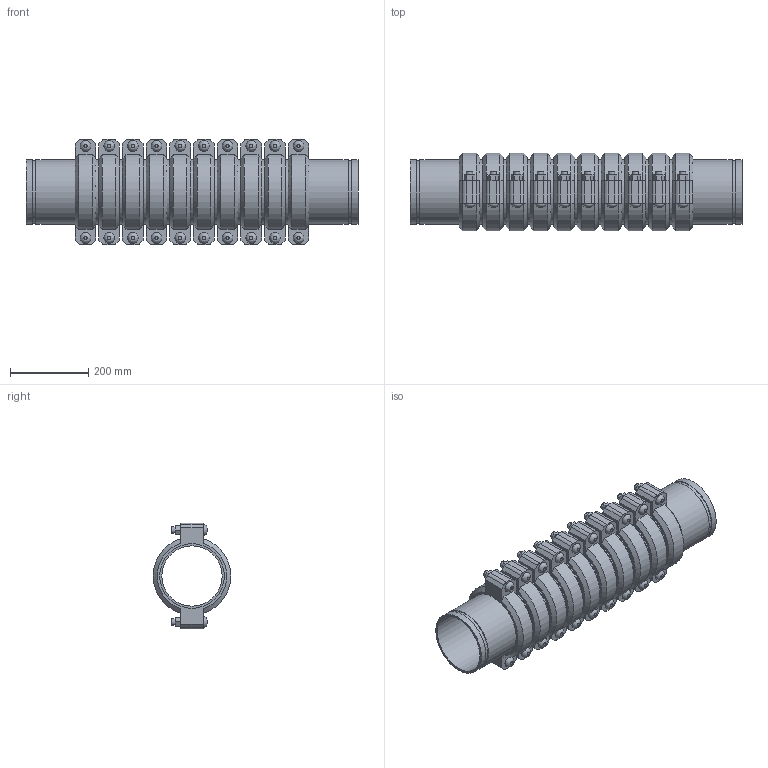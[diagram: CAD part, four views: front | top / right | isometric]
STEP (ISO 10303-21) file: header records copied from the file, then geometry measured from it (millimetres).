
FILE_DESCRIPTION(/* description */ ('VIC EXPANSION JOINT 10 COUPLINGS COMPRESSED STYLE 155 (OGS)','CAx-IF Rec.Pracs.---Representation and Presentation of Product Manufacturing Information (PMI)---4.0---2014-10-13'),/* implementation_level */ '2;1');
FILE_NAME(/* name */ 'C:\Users\kkamble\AppData\Roaming\Autodesk\ApplicationPlugins\Victaulic.Temp\A539\Victaulic_IPS_Expansion Joint_Compressed_10 Couplings_Style 155 (OGS)_06.0 (165.1) (150).stp',/* time_stamp */ '2021-06-27T00:17:05+02:00',/* author */ ('kkamble'),/* organization */ ('Victaulic'),/* preprocessor_version */ 'ST-DEVELOPER v17.2',/* originating_system */ 'Autodesk Inventor 2019',/* authorisation */ '');
FILE_SCHEMA (('AP242_MANAGED_MODEL_BASED_3D_ENGINEERING_MIM_LF { 1 0 10303 442 1 1 4 }'));
Length unit declared in the file: inch
Products named in the file (4): 155-06.0 (165.1); Nipple-06.0 (165.1); Nipple-06.0 (165.1)_1; 075_10_Coup-06.0 (165.1)
Assembly tree (21 placements, depth 2):
  155-06.0 (165.1)
    Nipple-06.0 (165.1)  x2
    Nipple-06.0 (165.1)_1  x9
    075_10_Coup-06.0 (165.1)  x10
Bounding box: 848.11 x 198.42 x 270.76 mm (x, y, z)
Volume: 9137170.3 mm3; surface area: 2040520.6 mm2
Topology: 21 solids, 41 shells, 702 faces, 1660 edges, 1164 vertices
Faces by surface type: plane 426, cylinder 216, cone 40, bspline 20
Full cylindrical faces by diameter (mm): 15.875 x40, 17.424 x20, 153.975 x11, 158.75 x10, 160.782 x22, 165.1 x53
Entity records: 2890 total; most frequent: CARTESIAN_POINT 505, DIRECTION 485, ORIENTED_EDGE 386, AXIS2_PLACEMENT_3D 196, EDGE_CURVE 193, VERTEX_POINT 138, EDGE_LOOP 107, LINE 93
